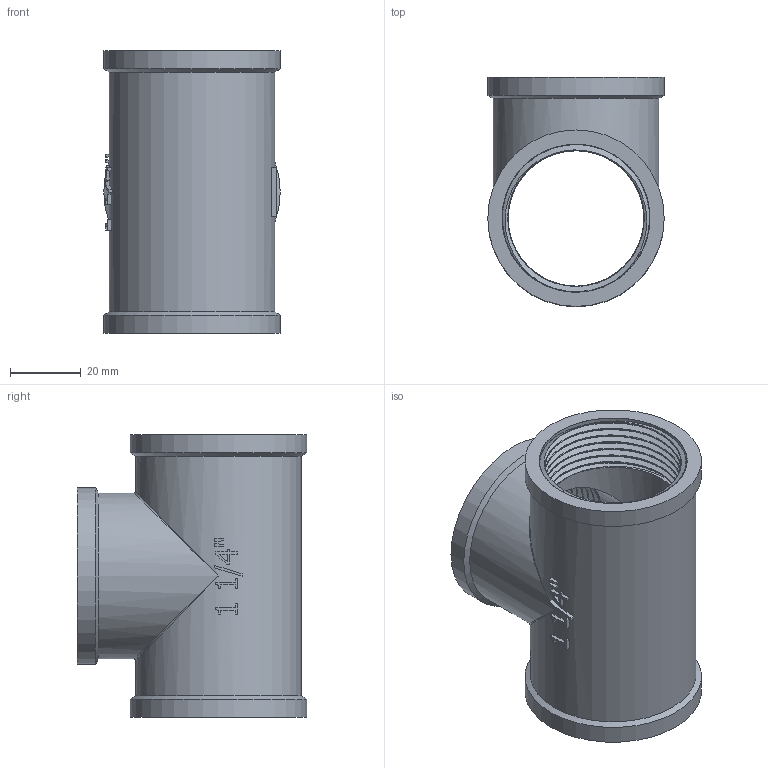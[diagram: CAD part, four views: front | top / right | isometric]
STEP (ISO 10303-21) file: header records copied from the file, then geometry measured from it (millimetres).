
FILE_DESCRIPTION(/* description */ (''),/* implementation_level */ '2;1');
FILE_NAME(/* name */ 'C:\Users\Doom\Desktop\Фадотех\Резьба\T07 18.03.2020\T07 18.03.2020.stp',/* time_stamp */ '2022-01-19T22:57:12+02:00',/* author */ ('Doom'),/* organization */ (''),/* preprocessor_version */ 'ST-DEVELOPER v18',/* originating_system */ 'Autodesk Inventor 2020',/* authorisation */ '');
FILE_SCHEMA (('AUTOMOTIVE_DESIGN { 1 0 10303 214 3 1 1 }'));
Length unit declared in the file: millimetre
Products named in the file (1): T07 18.03.2020
Bounding box: 50 x 65 x 80 mm (x, y, z)
Volume: 50502.1 mm3; surface area: 46647.9 mm2
Topology: 4 solids, 4 shells, 152 faces, 431 edges, 290 vertices
Faces by surface type: plane 79, cylinder 44, bspline 26, cone 3
Full cylindrical faces by diameter (mm): 38.486 x12, 38.496 x6, 38.95 x2, 41.91 x4, 41.92 x2, 47 x2, 50 x3
Entity records: 17385 total; most frequent: CARTESIAN_POINT 13622, ORIENTED_EDGE 834, DIRECTION 672, EDGE_CURVE 417, VERTEX_POINT 284, AXIS2_PLACEMENT_3D 243, LINE 186, VECTOR 186
